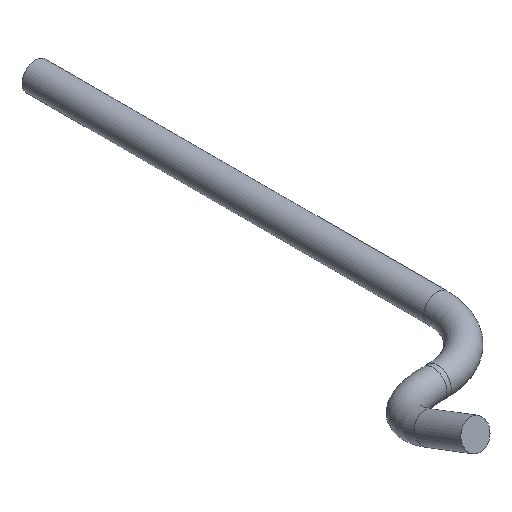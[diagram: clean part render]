
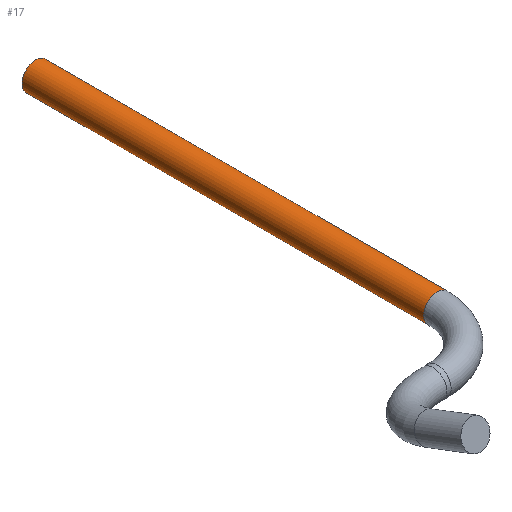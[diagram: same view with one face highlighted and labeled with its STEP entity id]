
A CAD part, isometric view. The second image highlights one B-rep face of the part: STEP entity #17.
In plain terms, the highlighted cylindrical face has radius 0.65 mm (diameter 1.3 mm), a full revolution.
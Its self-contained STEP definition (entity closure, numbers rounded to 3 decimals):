
#17 = ADVANCED_FACE('',(#18),#32,.T.);
#18 = FACE_BOUND('',#19,.T.);
#19 = EDGE_LOOP('',(#20,#49,#75,#76));
#20 = ORIENTED_EDGE('',*,*,#21,.T.);
#21 = EDGE_CURVE('',#22,#24,#26,.T.);
#22 = VERTEX_POINT('',#23);
#23 = CARTESIAN_POINT('',(-18.,40.,-7.25));
#24 = VERTEX_POINT('',#25);
#25 = CARTESIAN_POINT('',(-18.,21.,-7.25));
#26 = SEAM_CURVE('',#27,(#31,#42),.PCURVE_S1.);
#27 = LINE('',#28,#29);
#28 = CARTESIAN_POINT('',(-18.,40.,-7.25));
#29 = VECTOR('',#30,1.);
#30 = DIRECTION('',(0.,-1.,0.));
#31 = PCURVE('',#32,#37);
#32 = CYLINDRICAL_SURFACE('',#33,0.65);
#33 = AXIS2_PLACEMENT_3D('',#34,#35,#36);
#34 = CARTESIAN_POINT('',(-18.,40.,-6.6));
#35 = DIRECTION('',(0.,-1.,0.));
#36 = DIRECTION('',(0.,0.,-1.));
#37 = DEFINITIONAL_REPRESENTATION('',(#38),#41);
#38 = B_SPLINE_CURVE_WITH_KNOTS('',1,(#39,#40),.UNSPECIFIED.,.F.,.F.,(2,
    2),(0.,19.),.PIECEWISE_BEZIER_KNOTS.);
#39 = CARTESIAN_POINT('',(6.283,0.));
#40 = CARTESIAN_POINT('',(6.283,19.));
#41 = ( GEOMETRIC_REPRESENTATION_CONTEXT(2) 
PARAMETRIC_REPRESENTATION_CONTEXT() REPRESENTATION_CONTEXT('2D SPACE',''
  ) );
#42 = PCURVE('',#32,#43);
#43 = DEFINITIONAL_REPRESENTATION('',(#44),#48);
#44 = LINE('',#45,#46);
#45 = CARTESIAN_POINT('',(0.,0.));
#46 = VECTOR('',#47,1.);
#47 = DIRECTION('',(0.,1.));
#48 = ( GEOMETRIC_REPRESENTATION_CONTEXT(2) 
PARAMETRIC_REPRESENTATION_CONTEXT() REPRESENTATION_CONTEXT('2D SPACE',''
  ) );
#49 = ORIENTED_EDGE('',*,*,#50,.F.);
#50 = EDGE_CURVE('',#24,#24,#51,.T.);
#51 = SURFACE_CURVE('',#52,(#57,#64),.PCURVE_S1.);
#52 = CIRCLE('',#53,0.65);
#53 = AXIS2_PLACEMENT_3D('',#54,#55,#56);
#54 = CARTESIAN_POINT('',(-18.,21.,-6.6));
#55 = DIRECTION('',(0.,-1.,0.));
#56 = DIRECTION('',(0.,0.,-1.));
#57 = PCURVE('',#32,#58);
#58 = DEFINITIONAL_REPRESENTATION('',(#59),#63);
#59 = LINE('',#60,#61);
#60 = CARTESIAN_POINT('',(0.,19.));
#61 = VECTOR('',#62,1.);
#62 = DIRECTION('',(1.,0.));
#63 = ( GEOMETRIC_REPRESENTATION_CONTEXT(2) 
PARAMETRIC_REPRESENTATION_CONTEXT() REPRESENTATION_CONTEXT('2D SPACE',''
  ) );
#64 = PCURVE('',#65,#70);
#65 = TOROIDAL_SURFACE('',#66,3.,0.65);
#66 = AXIS2_PLACEMENT_3D('',#67,#68,#69);
#67 = CARTESIAN_POINT('',(-21.,21.,-6.6));
#68 = DIRECTION('',(0.,-0.,-1.));
#69 = DIRECTION('',(1.,0.,0.));
#70 = DEFINITIONAL_REPRESENTATION('',(#71),#74);
#71 = B_SPLINE_CURVE_WITH_KNOTS('',1,(#72,#73),.UNSPECIFIED.,.F.,.F.,(2,
    2),(0.,6.283),.PIECEWISE_BEZIER_KNOTS.);
#72 = CARTESIAN_POINT('',(0.,7.854));
#73 = CARTESIAN_POINT('',(0.,1.571));
#74 = ( GEOMETRIC_REPRESENTATION_CONTEXT(2) 
PARAMETRIC_REPRESENTATION_CONTEXT() REPRESENTATION_CONTEXT('2D SPACE',''
  ) );
#75 = ORIENTED_EDGE('',*,*,#21,.F.);
#76 = ORIENTED_EDGE('',*,*,#77,.T.);
#77 = EDGE_CURVE('',#22,#22,#78,.T.);
#78 = SURFACE_CURVE('',#79,(#84,#91),.PCURVE_S1.);
#79 = CIRCLE('',#80,0.65);
#80 = AXIS2_PLACEMENT_3D('',#81,#82,#83);
#81 = CARTESIAN_POINT('',(-18.,40.,-6.6));
#82 = DIRECTION('',(0.,-1.,0.));
#83 = DIRECTION('',(0.,0.,-1.));
#84 = PCURVE('',#32,#85);
#85 = DEFINITIONAL_REPRESENTATION('',(#86),#90);
#86 = LINE('',#87,#88);
#87 = CARTESIAN_POINT('',(0.,0.));
#88 = VECTOR('',#89,1.);
#89 = DIRECTION('',(1.,0.));
#90 = ( GEOMETRIC_REPRESENTATION_CONTEXT(2) 
PARAMETRIC_REPRESENTATION_CONTEXT() REPRESENTATION_CONTEXT('2D SPACE',''
  ) );
#91 = PCURVE('',#92,#97);
#92 = PLANE('',#93);
#93 = AXIS2_PLACEMENT_3D('',#94,#95,#96);
#94 = CARTESIAN_POINT('',(-18.,40.,-6.6));
#95 = DIRECTION('',(-0.,-1.,-0.));
#96 = DIRECTION('',(0.,0.,-1.));
#97 = DEFINITIONAL_REPRESENTATION('',(#98),#102);
#98 = CIRCLE('',#99,0.65);
#99 = AXIS2_PLACEMENT_2D('',#100,#101);
#100 = CARTESIAN_POINT('',(0.,0.));
#101 = DIRECTION('',(1.,0.));
#102 = ( GEOMETRIC_REPRESENTATION_CONTEXT(2) 
PARAMETRIC_REPRESENTATION_CONTEXT() REPRESENTATION_CONTEXT('2D SPACE',''
  ) );
